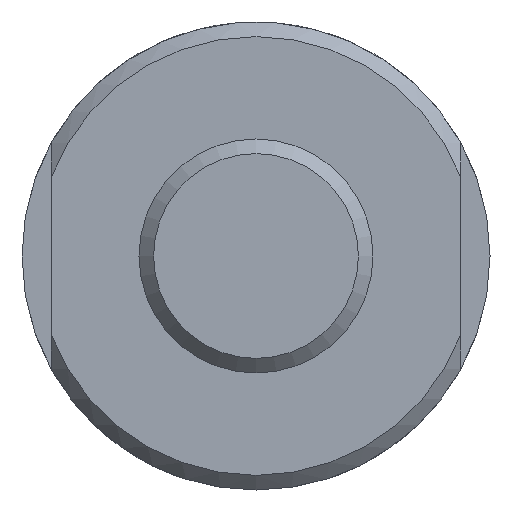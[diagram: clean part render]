
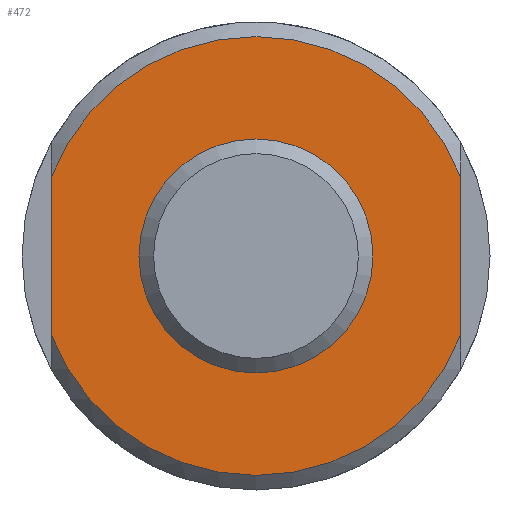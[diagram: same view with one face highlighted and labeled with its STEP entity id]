
A CAD part, left-side view. The second image highlights one B-rep face of the part: STEP entity #472.
In plain terms, the highlighted planar face has unit normal (-1, 0, 0).
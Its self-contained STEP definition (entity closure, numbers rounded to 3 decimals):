
#69=CIRCLE('',#552,4.);
#70=CIRCLE('',#553,7.5);
#71=CIRCLE('',#554,7.5);
#138=ORIENTED_EDGE('',*,*,#219,.T.);
#139=ORIENTED_EDGE('',*,*,#220,.F.);
#140=ORIENTED_EDGE('',*,*,#221,.F.);
#141=ORIENTED_EDGE('',*,*,#222,.T.);
#142=ORIENTED_EDGE('',*,*,#223,.F.);
#219=EDGE_CURVE('',#267,#267,#69,.T.);
#220=EDGE_CURVE('',#268,#269,#298,.T.);
#221=EDGE_CURVE('',#270,#268,#70,.T.);
#222=EDGE_CURVE('',#270,#271,#299,.T.);
#223=EDGE_CURVE('',#269,#271,#71,.T.);
#267=VERTEX_POINT('',#812);
#268=VERTEX_POINT('',#814);
#269=VERTEX_POINT('',#815);
#270=VERTEX_POINT('',#817);
#271=VERTEX_POINT('',#819);
#298=LINE('',#813,#316);
#299=LINE('',#818,#317);
#316=VECTOR('',#673,1000.);
#317=VECTOR('',#676,1000.);
#354=EDGE_LOOP('',(#138));
#355=EDGE_LOOP('',(#139,#140,#141,#142));
#410=FACE_BOUND('',#354,.T.);
#411=FACE_BOUND('',#355,.T.);
#446=PLANE('',#551);
#472=ADVANCED_FACE('',(#410,#411),#446,.F.);
#551=AXIS2_PLACEMENT_3D('',#810,#669,#670);
#552=AXIS2_PLACEMENT_3D('',#811,#671,#672);
#553=AXIS2_PLACEMENT_3D('',#816,#674,#675);
#554=AXIS2_PLACEMENT_3D('',#820,#677,#678);
#669=DIRECTION('',(1.,0.,0.));
#670=DIRECTION('',(0.,0.,-1.));
#671=DIRECTION('',(1.,0.,0.));
#672=DIRECTION('',(0.,0.,-1.));
#673=DIRECTION('',(0.,0.,-1.));
#674=DIRECTION('',(1.,0.,0.));
#675=DIRECTION('',(0.,0.,-1.));
#676=DIRECTION('',(0.,0.,-1.));
#677=DIRECTION('',(1.,0.,0.));
#678=DIRECTION('',(0.,0.,-1.));
#810=CARTESIAN_POINT('',(0.,0.,0.));
#811=CARTESIAN_POINT('',(0.,0.,0.));
#812=CARTESIAN_POINT('',(0.,0.,-4.));
#813=CARTESIAN_POINT('',(0.,-7.,10.));
#814=CARTESIAN_POINT('',(0.,-7.,2.693));
#815=CARTESIAN_POINT('',(0.,-7.,-2.693));
#816=CARTESIAN_POINT('',(0.,0.,0.));
#817=CARTESIAN_POINT('',(0.,7.,2.693));
#818=CARTESIAN_POINT('',(0.,7.,10.));
#819=CARTESIAN_POINT('',(0.,7.,-2.693));
#820=CARTESIAN_POINT('',(0.,0.,0.));
